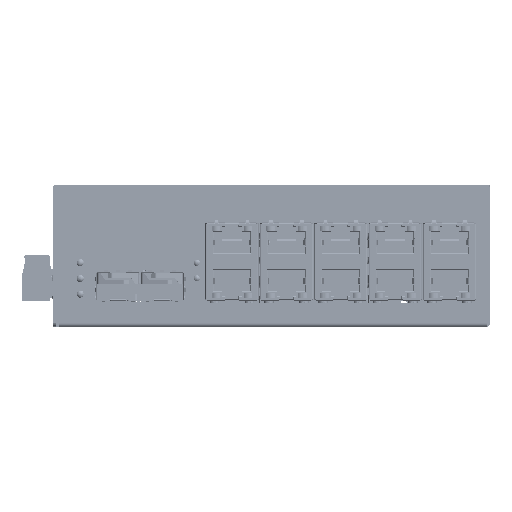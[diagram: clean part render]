
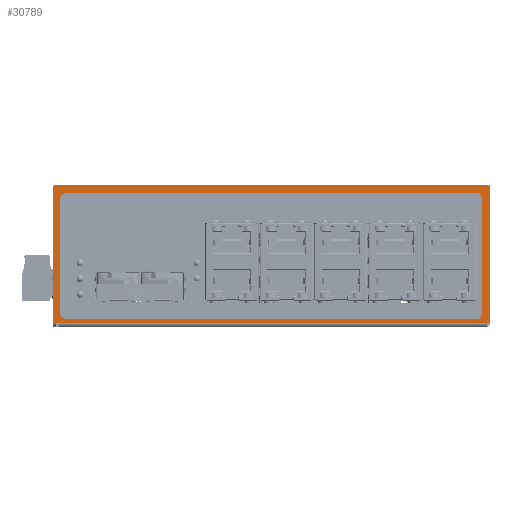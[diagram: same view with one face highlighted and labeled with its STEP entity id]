
A CAD part, front view. The second image highlights one B-rep face of the part: STEP entity #30789.
In plain terms, the highlighted planar face has unit normal (0, -1, 0).
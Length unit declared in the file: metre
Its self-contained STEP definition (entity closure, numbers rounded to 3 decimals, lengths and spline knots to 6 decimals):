
#30789 = ADVANCED_FACE( '', ( #70022, #70023 ), #70024, .T. );
#70022 = FACE_OUTER_BOUND( '', #125567, .T. );
#70023 = FACE_BOUND( '', #125568, .T. );
#70024 = PLANE( '', #125569 );
#125567 = EDGE_LOOP( '', ( #227757, #227758, #227759, #227760, #227761, #227762, #227763, #227764, #227765, #227766 ) );
#125568 = EDGE_LOOP( '', ( #227767, #227768, #227769, #227770, #227771, #227772, #227773, #227774 ) );
#125569 = AXIS2_PLACEMENT_3D( '', #227775, #227776, #227777 );
#227757 = ORIENTED_EDGE( '', *, *, #320270, .F. );
#227758 = ORIENTED_EDGE( '', *, *, #343458, .F. );
#227759 = ORIENTED_EDGE( '', *, *, #335308, .F. );
#227760 = ORIENTED_EDGE( '', *, *, #311857, .F. );
#227761 = ORIENTED_EDGE( '', *, *, #343459, .F. );
#227762 = ORIENTED_EDGE( '', *, *, #343460, .F. );
#227763 = ORIENTED_EDGE( '', *, *, #343461, .F. );
#227764 = ORIENTED_EDGE( '', *, *, #343462, .T. );
#227765 = ORIENTED_EDGE( '', *, *, #320478, .T. );
#227766 = ORIENTED_EDGE( '', *, *, #343463, .T. );
#227767 = ORIENTED_EDGE( '', *, *, #343464, .F. );
#227768 = ORIENTED_EDGE( '', *, *, #343465, .F. );
#227769 = ORIENTED_EDGE( '', *, *, #310174, .F. );
#227770 = ORIENTED_EDGE( '', *, *, #343466, .F. );
#227771 = ORIENTED_EDGE( '', *, *, #321158, .F. );
#227772 = ORIENTED_EDGE( '', *, *, #311104, .F. );
#227773 = ORIENTED_EDGE( '', *, *, #343467, .F. );
#227774 = ORIENTED_EDGE( '', *, *, #323931, .F. );
#227775 = CARTESIAN_POINT( '', ( 0., -0.049, 0. ) );
#227776 = DIRECTION( '', ( 0., -1., 0. ) );
#227777 = DIRECTION( '', ( 1., 0., 0. ) );
#310174 = EDGE_CURVE( '', #384512, #384515, #384516, .T. );
#311104 = EDGE_CURVE( '', #386150, #386145, #386152, .T. );
#311857 = EDGE_CURVE( '', #387496, #387491, #387498, .T. );
#320270 = EDGE_CURVE( '', #402048, #402051, #402052, .T. );
#320478 = EDGE_CURVE( '', #402391, #402393, #402395, .T. );
#321158 = EDGE_CURVE( '', #386145, #403533, #403534, .T. );
#323931 = EDGE_CURVE( '', #408196, #408191, #408198, .T. );
#335308 = EDGE_CURVE( '', #387491, #426772, #426774, .T. );
#343458 = EDGE_CURVE( '', #426772, #402048, #439482, .T. );
#343459 = EDGE_CURVE( '', #439483, #387496, #439484, .T. );
#343460 = EDGE_CURVE( '', #439485, #439483, #439486, .T. );
#343461 = EDGE_CURVE( '', #439487, #439485, #439488, .T. );
#343462 = EDGE_CURVE( '', #439487, #402391, #439489, .T. );
#343463 = EDGE_CURVE( '', #402393, #402051, #439490, .T. );
#343464 = EDGE_CURVE( '', #439491, #408196, #439492, .T. );
#343465 = EDGE_CURVE( '', #384515, #439491, #439493, .T. );
#343466 = EDGE_CURVE( '', #403533, #384512, #439494, .T. );
#343467 = EDGE_CURVE( '', #408191, #386150, #439495, .T. );
#384512 = VERTEX_POINT( '', #501122 );
#384515 = VERTEX_POINT( '', #501126 );
#384516 = CIRCLE( '', #501127, 0.002 );
#386145 = VERTEX_POINT( '', #503653 );
#386150 = VERTEX_POINT( '', #503660 );
#386152 = LINE( '', #503663, #503664 );
#387491 = VERTEX_POINT( '', #505625 );
#387496 = VERTEX_POINT( '', #505632 );
#387498 = LINE( '', #505635, #505636 );
#402048 = VERTEX_POINT( '', #527890 );
#402051 = VERTEX_POINT( '', #527894 );
#402052 = CIRCLE( '', #527895, 0.001 );
#402391 = VERTEX_POINT( '', #528391 );
#402393 = VERTEX_POINT( '', #528393 );
#402395 = LINE( '', #528395, #528396 );
#403533 = VERTEX_POINT( '', #530105 );
#403534 = CIRCLE( '', #530106, 0.002 );
#408191 = VERTEX_POINT( '', #537047 );
#408196 = VERTEX_POINT( '', #537054 );
#408198 = LINE( '', #537057, #537058 );
#426772 = VERTEX_POINT( '', #565369 );
#426774 = CIRCLE( '', #565372, 0.001 );
#439482 = LINE( '', #585293, #585294 );
#439483 = VERTEX_POINT( '', #585295 );
#439484 = CIRCLE( '', #585296, 0.001 );
#439485 = VERTEX_POINT( '', #585297 );
#439486 = LINE( '', #585298, #585299 );
#439487 = VERTEX_POINT( '', #585300 );
#439488 = CIRCLE( '', #585301, 0.001 );
#439489 = LINE( '', #585302, #585303 );
#439490 = LINE( '', #585304, #585305 );
#439491 = VERTEX_POINT( '', #585306 );
#439492 = CIRCLE( '', #585307, 0.002 );
#439493 = LINE( '', #585308, #585309 );
#439494 = LINE( '', #585310, #585311 );
#439495 = CIRCLE( '', #585312, 0.002 );
#501122 = CARTESIAN_POINT( '', ( 0.068, -0.049, 0.0405 ) );
#501126 = CARTESIAN_POINT( '', ( 0.066, -0.049, 0.0425 ) );
#501127 = AXIS2_PLACEMENT_3D( '', #656165, #656166, #656167 );
#503653 = CARTESIAN_POINT( '', ( 0.066, -0.049, 0.0015 ) );
#503660 = CARTESIAN_POINT( '', ( -0.067, -0.049, 0.0015 ) );
#503663 = CARTESIAN_POINT( '', ( -0.067, -0.049, 0.0015 ) );
#503664 = VECTOR( '', #657139, 1. );
#505625 = CARTESIAN_POINT( '', ( 0.0695, -0.049, 0.045 ) );
#505632 = CARTESIAN_POINT( '', ( -0.0705, -0.049, 0.045 ) );
#505635 = CARTESIAN_POINT( '', ( -0.0705, -0.049, 0.045 ) );
#505636 = VECTOR( '', #657950, 1. );
#527890 = CARTESIAN_POINT( '', ( 0.0705, -0.049, 0.0011 ) );
#527894 = CARTESIAN_POINT( '', ( 0.0695, -0.049, 0.0001 ) );
#527895 = AXIS2_PLACEMENT_3D( '', #666988, #666989, #666990 );
#528391 = CARTESIAN_POINT( '', ( -0.0694, -0.049, 0.0001 ) );
#528393 = CARTESIAN_POINT( '', ( 0.0694, -0.049, 0.0001 ) );
#528395 = CARTESIAN_POINT( '', ( -0.0694, -0.049, 0.0001 ) );
#528396 = VECTOR( '', #667228, 1. );
#530105 = CARTESIAN_POINT( '', ( 0.068, -0.049, 0.0035 ) );
#530106 = AXIS2_PLACEMENT_3D( '', #667956, #667957, #667958 );
#537047 = CARTESIAN_POINT( '', ( -0.069, -0.049, 0.0035 ) );
#537054 = CARTESIAN_POINT( '', ( -0.069, -0.049, 0.0405 ) );
#537057 = CARTESIAN_POINT( '', ( -0.069, -0.049, 0.0405 ) );
#537058 = VECTOR( '', #670875, 1. );
#565369 = CARTESIAN_POINT( '', ( 0.0705, -0.049, 0.044 ) );
#565372 = AXIS2_PLACEMENT_3D( '', #683215, #683216, #683217 );
#585293 = CARTESIAN_POINT( '', ( 0.0705, -0.049, 0.044 ) );
#585294 = VECTOR( '', #691730, 1. );
#585295 = CARTESIAN_POINT( '', ( -0.0715, -0.049, 0.044 ) );
#585296 = AXIS2_PLACEMENT_3D( '', #691731, #691732, #691733 );
#585297 = CARTESIAN_POINT( '', ( -0.0715, -0.049, 0.0011 ) );
#585298 = CARTESIAN_POINT( '', ( -0.0715, -0.049, 0.0011 ) );
#585299 = VECTOR( '', #691734, 1. );
#585300 = CARTESIAN_POINT( '', ( -0.0705, -0.049, 0.0001 ) );
#585301 = AXIS2_PLACEMENT_3D( '', #691735, #691736, #691737 );
#585302 = CARTESIAN_POINT( '', ( -0.0705, -0.049, 0.0001 ) );
#585303 = VECTOR( '', #691738, 1. );
#585304 = CARTESIAN_POINT( '', ( 0.0694, -0.049, 0.0001 ) );
#585305 = VECTOR( '', #691739, 1. );
#585306 = CARTESIAN_POINT( '', ( -0.067, -0.049, 0.0425 ) );
#585307 = AXIS2_PLACEMENT_3D( '', #691740, #691741, #691742 );
#585308 = CARTESIAN_POINT( '', ( 0.066, -0.049, 0.0425 ) );
#585309 = VECTOR( '', #691743, 1. );
#585310 = CARTESIAN_POINT( '', ( 0.068, -0.049, 0.0035 ) );
#585311 = VECTOR( '', #691744, 1. );
#585312 = AXIS2_PLACEMENT_3D( '', #691745, #691746, #691747 );
#656165 = CARTESIAN_POINT( '', ( 0.066, -0.049, 0.0405 ) );
#656166 = DIRECTION( '', ( 0., -1., 0. ) );
#656167 = DIRECTION( '', ( 1., 0., 0. ) );
#657139 = DIRECTION( '', ( 1., 0., 0. ) );
#657950 = DIRECTION( '', ( 1., 0., 0. ) );
#666988 = CARTESIAN_POINT( '', ( 0.0695, -0.049, 0.0011 ) );
#666989 = DIRECTION( '', ( 0., 1., 0. ) );
#666990 = DIRECTION( '', ( 1., 0., 0. ) );
#667228 = DIRECTION( '', ( 1., 0., 0. ) );
#667956 = CARTESIAN_POINT( '', ( 0.066, -0.049, 0.0035 ) );
#667957 = DIRECTION( '', ( 0., -1., 0. ) );
#667958 = DIRECTION( '', ( 0., 0., -1. ) );
#670875 = DIRECTION( '', ( 0., 0., -1. ) );
#683215 = CARTESIAN_POINT( '', ( 0.0695, -0.049, 0.044 ) );
#683216 = DIRECTION( '', ( 0., 1., 0. ) );
#683217 = DIRECTION( '', ( 0., 0., 1. ) );
#691730 = DIRECTION( '', ( 0., 0., -1. ) );
#691731 = CARTESIAN_POINT( '', ( -0.0705, -0.049, 0.044 ) );
#691732 = DIRECTION( '', ( 0., 1., 0. ) );
#691733 = DIRECTION( '', ( -1., 0., 0. ) );
#691734 = DIRECTION( '', ( 0., 0., 1. ) );
#691735 = CARTESIAN_POINT( '', ( -0.0705, -0.049, 0.0011 ) );
#691736 = DIRECTION( '', ( 0., 1., 0. ) );
#691737 = DIRECTION( '', ( 0., 0., -1. ) );
#691738 = DIRECTION( '', ( 1., 0., 0. ) );
#691739 = DIRECTION( '', ( 1., 0., 0. ) );
#691740 = CARTESIAN_POINT( '', ( -0.067, -0.049, 0.0405 ) );
#691741 = DIRECTION( '', ( 0., -1., 0. ) );
#691742 = DIRECTION( '', ( 0., 0., 1. ) );
#691743 = DIRECTION( '', ( -1., 0., 0. ) );
#691744 = DIRECTION( '', ( 0., 0., 1. ) );
#691745 = CARTESIAN_POINT( '', ( -0.067, -0.049, 0.0035 ) );
#691746 = DIRECTION( '', ( 0., -1., 0. ) );
#691747 = DIRECTION( '', ( -1., 0., 0. ) );
